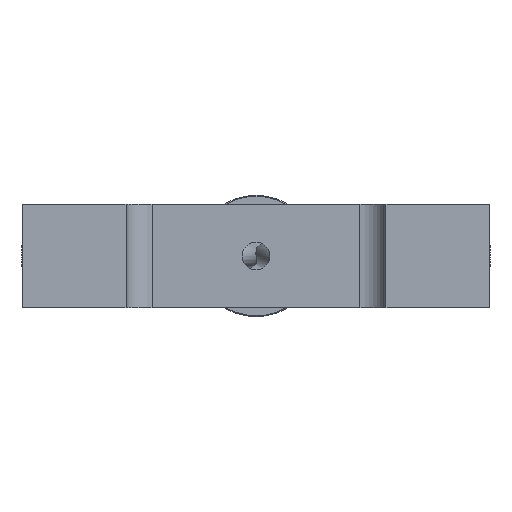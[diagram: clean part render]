
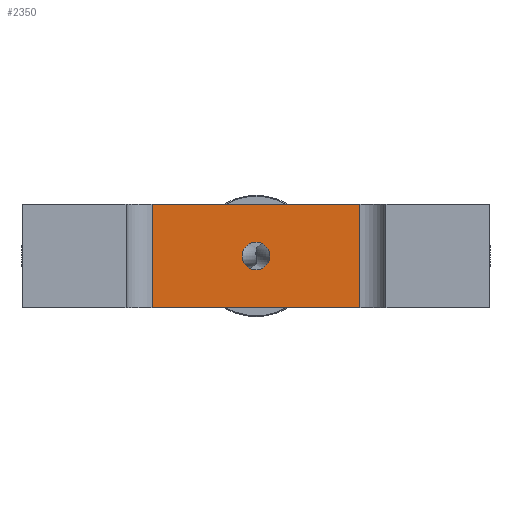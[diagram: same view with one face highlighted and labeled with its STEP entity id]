
A CAD part, left-side view. The second image highlights one B-rep face of the part: STEP entity #2350.
In plain terms, the highlighted planar face has unit normal (-1, 0, 0).
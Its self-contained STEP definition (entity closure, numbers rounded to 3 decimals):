
#112=LINE($,#4263,#200);
#114=LINE($,#4269,#202);
#115=LINE($,#4271,#203);
#116=LINE($,#4272,#204);
#200=VECTOR($,#3333,12.);
#202=VECTOR($,#3339,24.);
#203=VECTOR($,#3340,12.);
#204=VECTOR($,#3341,24.);
#307=PLANE($,#2666);
#402=FACE_BOUND($,#790,.T.);
#403=FACE_BOUND($,#791,.T.);
#790=EDGE_LOOP($,(#1908));
#791=EDGE_LOOP($,(#1909,#1910,#1911,#1912));
#958=CIRCLE($,#2655,1.6);
#1146=VERTEX_POINT($,#4244);
#1153=VERTEX_POINT($,#4260);
#1154=VERTEX_POINT($,#4262);
#1156=VERTEX_POINT($,#4268);
#1157=VERTEX_POINT($,#4270);
#1404=EDGE_CURVE($,#1146,#1146,#958,.T.);
#1411=EDGE_CURVE($,#1153,#1154,#112,.T.);
#1414=EDGE_CURVE($,#1153,#1156,#114,.T.);
#1415=EDGE_CURVE($,#1157,#1156,#115,.T.);
#1416=EDGE_CURVE($,#1157,#1154,#116,.T.);
#1908=ORIENTED_EDGE($,*,*,#1404,.T.);
#1909=ORIENTED_EDGE($,*,*,#1411,.F.);
#1910=ORIENTED_EDGE($,*,*,#1414,.T.);
#1911=ORIENTED_EDGE($,*,*,#1415,.F.);
#1912=ORIENTED_EDGE($,*,*,#1416,.T.);
#2350=ADVANCED_FACE($,(#402,#403),#307,.T.);
#2655=AXIS2_PLACEMENT_3D($,#4245,#3313,#3314);
#2666=AXIS2_PLACEMENT_3D($,#4267,#3337,#3338);
#3313=DIRECTION('center_axis',(1.,0.,0.));
#3314=DIRECTION('ref_axis',(0.,0.,-1.));
#3333=DIRECTION($,(0.,0.,1.));
#3337=DIRECTION('center_axis',(-1.,0.,0.));
#3338=DIRECTION('ref_axis',(0.,0.,1.));
#3339=DIRECTION($,(0.,-1.,0.));
#3340=DIRECTION($,(0.,0.,-1.));
#3341=DIRECTION($,(0.,1.,0.));
#4244=CARTESIAN_POINT('',(37.,0.,7.6));
#4245=CARTESIAN_POINT('Origin',(37.,0.,6.));
#4260=CARTESIAN_POINT('',(37.,12.,0.));
#4262=CARTESIAN_POINT('',(37.,12.,12.));
#4263=CARTESIAN_POINT($,(37.,12.,0.));
#4267=CARTESIAN_POINT('Origin',(37.,-15.,0.));
#4268=CARTESIAN_POINT('',(37.,-12.,0.));
#4269=CARTESIAN_POINT($,(37.,15.,0.));
#4270=CARTESIAN_POINT('',(37.,-12.,12.));
#4271=CARTESIAN_POINT($,(37.,-12.,0.));
#4272=CARTESIAN_POINT($,(37.,15.,12.));
